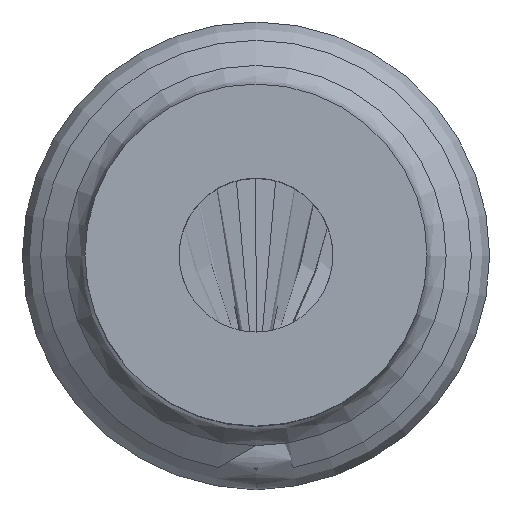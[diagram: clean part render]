
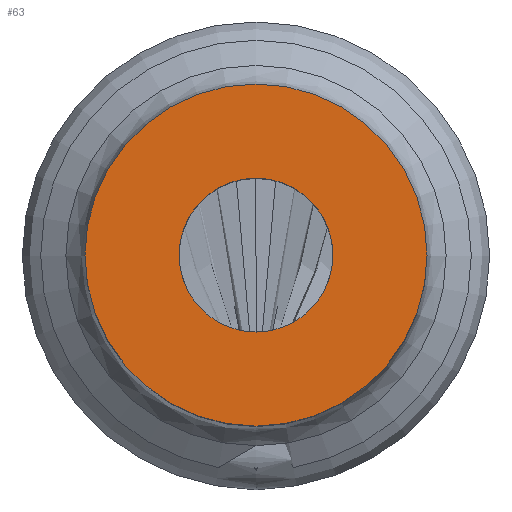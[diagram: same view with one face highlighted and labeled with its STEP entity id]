
A CAD part, top view. The second image highlights one B-rep face of the part: STEP entity #63.
In plain terms, the highlighted planar face has unit normal (0, 0, 1).
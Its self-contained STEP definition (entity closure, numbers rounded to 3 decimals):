
#63=ADVANCED_FACE('',(#136,#137),#138,.F.);
#136=FACE_BOUND('',#213,.T.);
#137=FACE_OUTER_BOUND('',#214,.T.);
#138=PLANE('',#215);
#213=EDGE_LOOP('',(#332));
#214=EDGE_LOOP('',(#333));
#215=AXIS2_PLACEMENT_3D('',#334,#335,#336);
#332=ORIENTED_EDGE('',*,*,#419,.F.);
#333=ORIENTED_EDGE('',*,*,#417,.F.);
#334=CARTESIAN_POINT('',(5.0,0.,15.5));
#335=DIRECTION('',(0.0,0.,-1.0));
#336=DIRECTION('',(0.0,1.0,0.));
#417=EDGE_CURVE('',#464,#464,#465,.F.);
#419=EDGE_CURVE('',#467,#467,#468,.T.);
#464=VERTEX_POINT('',#528);
#465=CIRCLE('',#529,5.0);
#467=VERTEX_POINT('',#531);
#468=CIRCLE('',#532,2.25);
#528=CARTESIAN_POINT('',(0.,-5.0,15.5));
#529=AXIS2_PLACEMENT_3D('',#578,#579,#580);
#531=CARTESIAN_POINT('',(0.,-2.25,15.5));
#532=AXIS2_PLACEMENT_3D('',#581,#582,#583);
#578=CARTESIAN_POINT('',(0.,0.,15.5));
#579=DIRECTION('',(0.0,0.,1.0));
#580=DIRECTION('',(0.0,-1.0,0.));
#581=CARTESIAN_POINT('',(0.,0.,15.5));
#582=DIRECTION('',(0.0,0.,1.0));
#583=DIRECTION('',(0.0,-1.0,0.));
